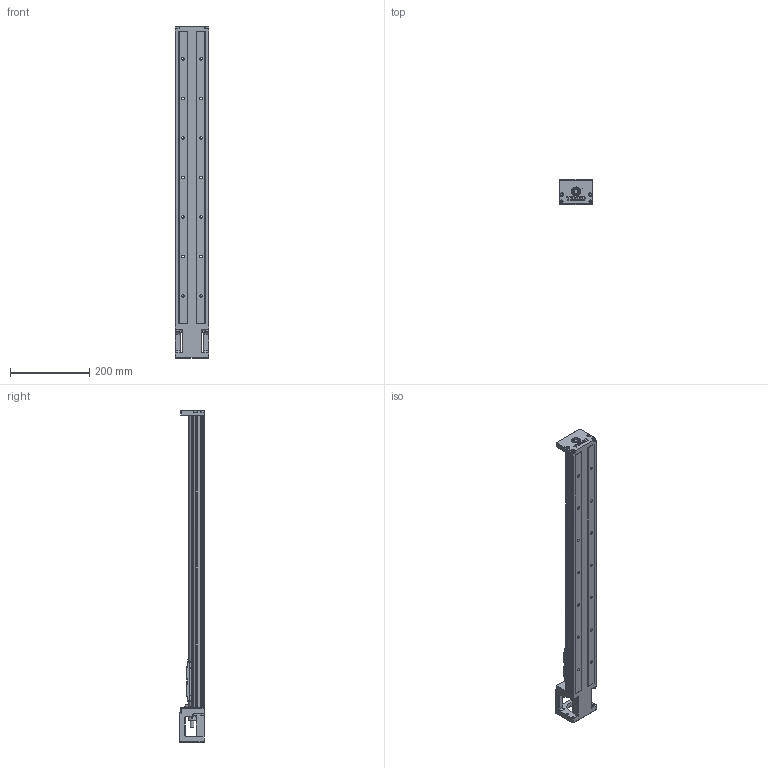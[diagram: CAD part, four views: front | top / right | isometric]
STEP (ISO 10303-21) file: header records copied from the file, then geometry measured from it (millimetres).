
FILE_DESCRIPTION (( 'STEP AP214' ), '1' );
FILE_NAME ('7.0120 KT8610C-740A1-F0.STEP', '2026-03-17T11:59:18', ( '' ), ( '' ), 'SwSTEP 2.0', 'SolidWorks 2025', '' );
FILE_SCHEMA (( 'AUTOMOTIVE_DESIGN' ));
Length unit declared in the file: millimetre
Products named in the file (3): KT86-K0_KKR86-ZT-P-740; 7.0120 KT8610C-740A1-F0; KT86-A1_1
Assembly tree (2 placements, depth 2):
  7.0120 KT8610C-740A1-F0
    KT86-K0_KKR86-ZT-P-740
    KT86-A1_1
Bounding box: 86 x 64 x 840.2 mm (x, y, z)
Volume: 1536862 mm3; surface area: 353161.3 mm2
Topology: 18 solids, 18 shells, 1351 faces, 3532 edges, 2207 vertices
Faces by surface type: plane 627, cylinder 464, cone 168, torus 51, sphere 24, bspline 17
Entity records: 56061 total; most frequent: CARTESIAN_POINT 9685, DIRECTION 7067, ORIENTED_EDGE 6892, EDGE_CURVE 3446, AXIS2_PLACEMENT_3D 2494, VERTEX_POINT 2207, LINE 2079, VECTOR 2079
